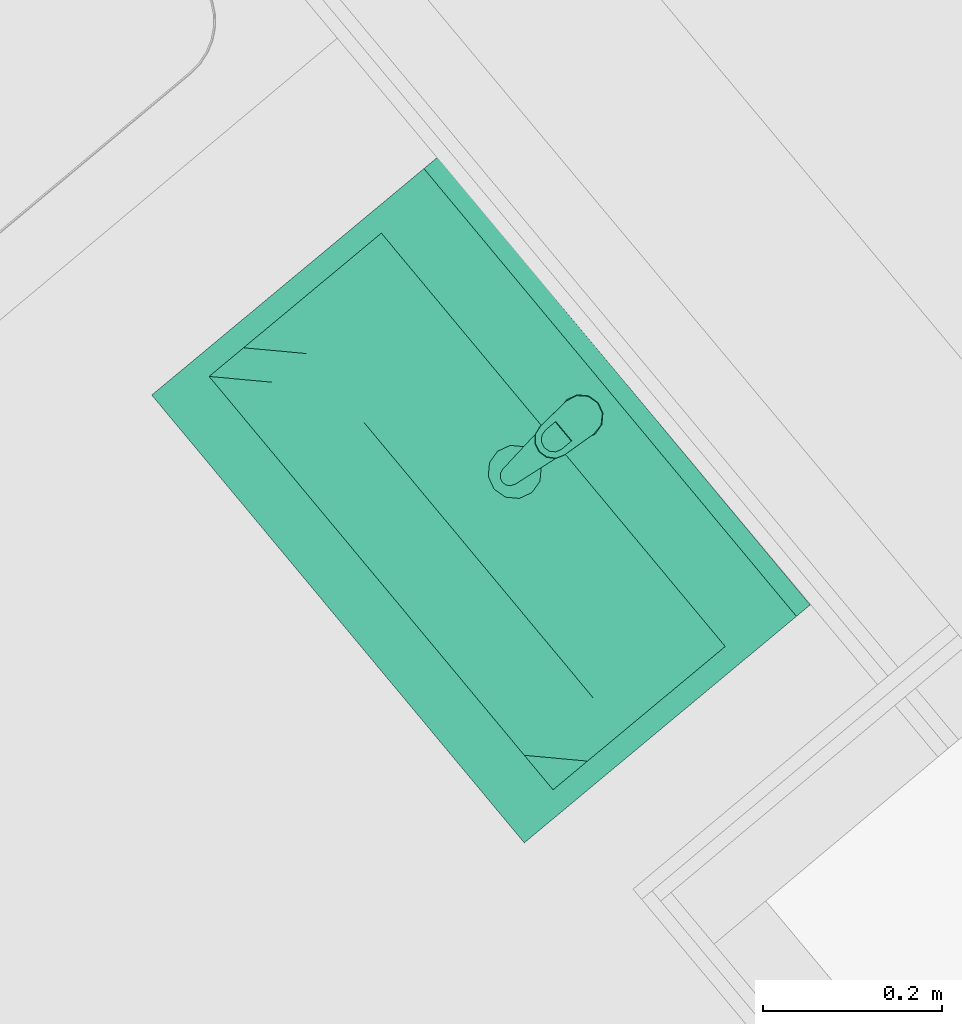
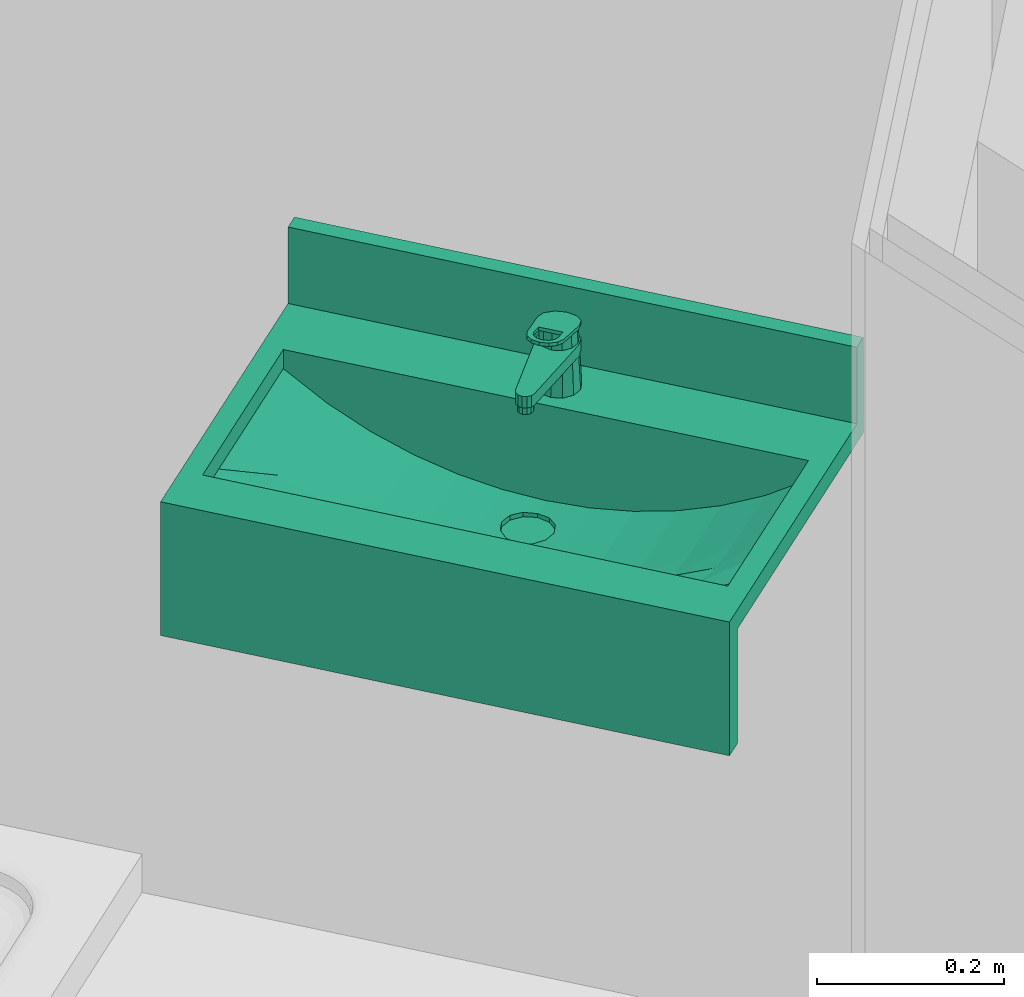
# One storey, part 51 of 58: 1 sanitary terminal.
"""IFC4 building model written with IfcOpenShell, lengths in metres."""

from ifc_helpers import new_model, entity, si_unit, converted_unit, derived_unit, direction, frame, origin_with_axes, place, context, subcontext, project, spatial, polygons, source, transform, mapped, type_object, element, save


model = new_model("IFC4")

# Units and contexts
model_context = context("Model", 3, precision=1e-05, world=origin_with_axes(), true_north=direction((0.0, 1.0)))
body_context = subcontext(model_context, "Body", "Model", "MODEL_VIEW")
ifc_project = project(units=[si_unit("LENGTHUNIT", "METRE"), si_unit("AREAUNIT", "SQUARE_METRE"), si_unit("VOLUMEUNIT", "CUBIC_METRE"), converted_unit("PLANEANGLEUNIT", "DEGREE", entity("IfcPlaneAngleMeasure", 0.0174532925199), si_unit("PLANEANGLEUNIT", "RADIAN"), dimensions=[0, 0, 0, 0, 0, 0, 0]), converted_unit("TIMEUNIT", "Year", entity("IfcTimeMeasure", 31556926.0), si_unit("TIMEUNIT", "SECOND"), dimensions=[0, 0, 1, 0, 0, 0, 0]), si_unit("MASSUNIT", "GRAM", prefix="KILO"), si_unit("THERMODYNAMICTEMPERATUREUNIT", "DEGREE_CELSIUS"), si_unit("LUMINOUSINTENSITYUNIT", "LUMEN"), si_unit("ENERGYUNIT", "JOULE", prefix="MEGA"), derived_unit("THERMALCONDUCTANCEUNIT", [(si_unit("POWERUNIT", "WATT"), 1), (si_unit("LENGTHUNIT", "METRE"), -1), (si_unit("THERMODYNAMICTEMPERATUREUNIT", "KELVIN"), -1)]), derived_unit("SPECIFICHEATCAPACITYUNIT", [(si_unit("ENERGYUNIT", "JOULE"), 1), (si_unit("MASSUNIT", "GRAM", prefix="KILO"), -1), (si_unit("THERMODYNAMICTEMPERATUREUNIT", "KELVIN"), -1)]), derived_unit("MASSDENSITYUNIT", [(si_unit("MASSUNIT", "GRAM", prefix="KILO"), 1), (si_unit("VOLUMEUNIT", "CUBIC_METRE"), -1)])], contexts=[model_context])

# Site, building, storey
site_placement = place(None, frame((-0.00153261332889, -0.00661245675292, 0.0), z_axis=(0.0, 0.0, 1.0), x_axis=(1.0, 0.0, 0.0)))
site = spatial("IfcSite", under=ifc_project, at=site_placement, Name="Site", CompositionType="ELEMENT")
building_placement = place(site_placement, origin_with_axes())
building = spatial("IfcBuilding", under=site, at=building_placement, Name="Building", CompositionType="ELEMENT")
storey_placement = place(building_placement, frame((0.0, 0.0, 5.7), z_axis=(0.0, 0.0, 1.0), x_axis=(1.0, 0.0, 0.0)))
storey = spatial("IfcBuildingStorey", under=building, at=storey_placement, Name="DG1", CompositionType="ELEMENT", Elevation=5.7)

# Sanitary terminal
sanitary_terminal_type = type_object("IfcSanitaryTerminalType", Name="Waschbecken mehrfach 26", PredefinedType="NOTDEFINED")
shared_shape = source(origin_with_axes(), body_context, "Body", "Tessellation", [
    polygons([(-0.325, 0.0, 0.875), (0.325, 0.0, 0.875), (0.325, -0.415119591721, 0.875), (-0.325, -0.415119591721, 0.875), (-0.3, -0.35255979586, 0.875), (0.3, -0.35255979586, 0.875), (0.3, -0.10255979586, 0.875), (-0.3, -0.10255979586, 0.875), (-0.325, 0.0, 0.9), (0.325, 0.0, 0.9), (0.325, -0.415119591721, 0.9), (-0.325, -0.415119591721, 0.9), (-0.3, -0.35255979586, 0.9), (0.3, -0.35255979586, 0.9), (0.3, -0.10255979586, 0.9), (-0.3, -0.10255979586, 0.9)], [[[1, 2, 3, 4], [5, 6, 7, 8]], [[1, 9, 10, 2]], [[2, 10, 11, 3]], [[3, 11, 12, 4]], [[4, 12, 9, 1]], [[13, 14, 6, 5]], [[14, 15, 7, 6]], [[15, 16, 8, 7]], [[16, 13, 5, 8]], [[11, 10, 9, 12], [13, 16, 15, 14]]], closed=True),
    polygons([(-0.325, -0.02, 0.9), (0.325, -0.02, 0.9), (0.325, -0.02, 1.0), (-0.325, -0.02, 1.0), (-0.325, 0.0, 0.9), (0.325, 0.0, 0.9), (0.325, 0.0, 1.0), (-0.325, 0.0, 1.0)], [[[1, 2, 3, 4]], [[1, 5, 6, 2]], [[2, 6, 7, 3]], [[4, 3, 7, 8]], [[5, 1, 4, 8]], [[6, 5, 8, 7]]], closed=True),
    polygons([(-0.325, -0.415119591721, 0.725), (0.325, -0.415119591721, 0.725), (0.325, -0.415119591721, 0.875), (-0.325, -0.415119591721, 0.875), (-0.325, -0.390119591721, 0.725), (0.325, -0.390119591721, 0.725), (0.325, -0.390119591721, 0.875), (-0.325, -0.390119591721, 0.875)], [[[1, 2, 3, 4]], [[1, 5, 6, 2]], [[2, 6, 7, 3]], [[4, 3, 7, 8]], [[5, 1, 4, 8]], [[6, 5, 8, 7]]], closed=True),
    polygons([(0.0, -0.18855104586, 0.775), (-0.015, -0.184531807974, 0.775751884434), (-0.0259807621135, -0.17355104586, 0.776302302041), (-0.03, -0.15855104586, 0.776503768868), (-0.0283946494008, -0.15255979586, 0.77642329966), (-0.05, -0.15255979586, 0.777506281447), (-0.05, -0.20255979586, 0.777506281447), (0.0, -0.20255979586, 0.775), (-0.015, -0.132570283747, 0.775751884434), (0.0, -0.12855104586, 0.775), (0.0, -0.10255979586, 0.775), (-0.05, -0.10255979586, 0.777506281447), (-0.0259807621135, -0.14355104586, 0.776302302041), (-0.1, -0.15255979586, 0.785102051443), (-0.1, -0.20255979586, 0.785102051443), (-0.05, -0.25255979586, 0.788254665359), (0.05, -0.15255979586, 0.777506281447), (0.0283946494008, -0.15255979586, 0.77642329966), (0.03, -0.15855104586, 0.776503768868), (0.0259807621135, -0.17355104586, 0.776302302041), (0.015, -0.184531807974, 0.775751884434), (0.05, -0.20255979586, 0.777506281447), (0.015, -0.132570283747, 0.775751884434), (0.0259807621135, -0.14355104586, 0.776302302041), (0.05, -0.10255979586, 0.777506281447), (0.15, -0.10255979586, 0.798030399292), (0.2, -0.10255979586, 0.816742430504), (0.25, -0.10255979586, 0.841987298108), (0.3, -0.10255979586, 0.875), (-0.3, -0.10255979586, 0.875), (-0.25, -0.10255979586, 0.841987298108), (-0.2, -0.10255979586, 0.816742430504), (-0.15, -0.10255979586, 0.798030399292), (-0.1, -0.10255979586, 0.785102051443), (0.1, -0.10255979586, 0.785102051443), (-0.15, -0.15255979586, 0.798030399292), (-0.15, -0.20255979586, 0.798030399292), (-0.1, -0.25255979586, 0.795144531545), (0.0, -0.25255979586, 0.785977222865), (0.1, -0.20255979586, 0.785102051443), (0.1, -0.15255979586, 0.785102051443), (0.2, -0.15255979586, 0.816742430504), (0.15, -0.15255979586, 0.798030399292), (0.25, -0.15255979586, 0.841987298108), (0.3, -0.15255979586, 0.875), (-0.25, -0.15255979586, 0.841987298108), (-0.3, -0.15255979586, 0.875), (-0.2, -0.15255979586, 0.816742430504), (-0.2, -0.20255979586, 0.816742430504), (-0.15, -0.25255979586, 0.806826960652), (-0.05, -0.30255979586, 0.830189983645), (-0.1, -0.30255979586, 0.83395176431), (0.05, -0.25255979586, 0.788254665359), (0.15, -0.20255979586, 0.798030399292), (0.2, -0.20255979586, 0.816742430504), (0.25, -0.20255979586, 0.841987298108), (0.3, -0.20255979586, 0.875), (0.3, -0.25255979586, 0.875), (0.3, -0.30255979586, 0.875), (0.3, -0.35255979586, 0.875), (-0.3, -0.25255979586, 0.875), (-0.3, -0.20255979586, 0.875), (-0.3, -0.35255979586, 0.875), (-0.3, -0.30255979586, 0.875), (-0.25, -0.20255979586, 0.841987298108), (-0.2, -0.25255979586, 0.823629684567), (-0.15, -0.30255979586, 0.840253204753), (0.0, -0.30255979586, 0.828939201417), (0.1, -0.25255979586, 0.795144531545), (0.15, -0.25255979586, 0.806826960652), (0.2, -0.25255979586, 0.823629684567), (0.25, -0.25255979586, 0.846079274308), (0.25, -0.30255979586, 0.860693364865), (0.25, -0.35255979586, 0.875), (-0.25, -0.30255979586, 0.860693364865), (-0.25, -0.25255979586, 0.846079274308), (-0.2, -0.30255979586, 0.849143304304), (-0.05, -0.35255979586, 0.875), (-0.1, -0.35255979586, 0.875), (-0.15, -0.35255979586, 0.875), (0.05, -0.30255979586, 0.830189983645), (-0.2, -0.35255979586, 0.875), (-0.25, -0.35255979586, 0.875), (0.2, -0.35255979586, 0.875), (0.15, -0.35255979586, 0.875), (0.1, -0.35255979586, 0.875), (0.05, -0.35255979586, 0.875), (0.0, -0.35255979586, 0.875), (0.1, -0.30255979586, 0.83395176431), (0.15, -0.30255979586, 0.840253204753), (0.2, -0.30255979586, 0.849143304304)], [[[1, 2, 3, 4, 5, 6, 7, 8]], [[9, 10, 11, 12, 6, 5, 13]], [[7, 6, 14, 15]], [[16, 8, 7]], [[17, 18, 19, 20, 21, 1, 8, 22]], [[10, 23, 24, 18, 17, 25, 11]], [[26, 27, 28, 29, 30, 31, 32, 33, 34, 12, 11, 25, 35]], [[6, 12, 34, 14]], [[15, 14, 36, 37]], [[38, 7, 15]], [[16, 39, 8]], [[38, 16, 7]], [[39, 22, 8]], [[40, 41, 17, 22]], [[41, 35, 25, 17]], [[42, 27, 26, 43]], [[44, 28, 27, 42]], [[45, 29, 28, 44]], [[46, 31, 30, 47]], [[48, 32, 31, 46]], [[36, 33, 32, 48]], [[14, 34, 33, 36]], [[43, 26, 35, 41]], [[37, 36, 48, 49]], [[50, 15, 37]], [[50, 38, 15]], [[51, 39, 16]], [[52, 16, 38]], [[39, 53, 22]], [[54, 43, 41, 40]], [[53, 40, 22]], [[55, 42, 43, 54]], [[56, 44, 42, 55]], [[57, 58, 59, 60, 29, 45]], [[57, 45, 44, 56]], [[61, 62, 47, 30, 63, 64]], [[65, 46, 47, 62]], [[49, 48, 46, 65]], [[66, 37, 49]], [[66, 50, 37]], [[67, 38, 50]], [[51, 68, 39]], [[52, 51, 16]], [[67, 52, 38]], [[68, 53, 39]], [[69, 54, 40]], [[53, 69, 40]], [[70, 55, 54]], [[71, 56, 55]], [[72, 58, 57]], [[73, 59, 58]], [[74, 60, 59]], [[72, 57, 56]], [[61, 65, 62]], [[63, 75, 64]], [[64, 76, 61]], [[76, 49, 65]], [[76, 66, 49]], [[77, 50, 66]], [[77, 67, 50]], [[78, 68, 51]], [[79, 51, 52]], [[80, 52, 67]], [[68, 81, 53]], [[69, 70, 54]], [[81, 69, 53]], [[70, 71, 55]], [[71, 72, 56]], [[73, 58, 72]], [[74, 59, 73]], [[80, 82, 83, 63, 60, 74, 84, 85, 86, 87, 88, 78, 79]], [[61, 76, 65]], [[63, 83, 75]], [[64, 75, 76]], [[75, 66, 76]], [[75, 77, 66]], [[82, 67, 77]], [[78, 88, 68]], [[79, 78, 51]], [[80, 79, 52]], [[82, 80, 67]], [[88, 81, 68]], [[89, 70, 69]], [[81, 89, 69]], [[90, 71, 70]], [[91, 72, 71]], [[91, 73, 72]], [[84, 74, 73]], [[83, 82, 77]], [[85, 84, 91]], [[86, 85, 90]], [[87, 86, 89]], [[88, 87, 81]], [[83, 77, 75]], [[89, 90, 70]], [[87, 89, 81]], [[90, 91, 71]], [[84, 73, 91]], [[85, 91, 90]], [[86, 90, 89]]], closed=False),
    polygons([(0.03, -0.15855104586, 0.776503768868), (0.0259807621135, -0.17355104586, 0.776302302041), (0.0259807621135, -0.17355104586, 0.77), (0.03, -0.15855104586, 0.77), (0.015, -0.184531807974, 0.775751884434), (0.015, -0.184531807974, 0.77), (0.0, -0.12855104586, 0.77), (0.015, -0.132570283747, 0.77), (0.0259807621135, -0.14355104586, 0.77), (0.0, -0.18855104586, 0.77), (-0.015, -0.184531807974, 0.77), (-0.0259807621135, -0.17355104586, 0.77), (-0.03, -0.15855104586, 0.77), (-0.0259807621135, -0.14355104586, 0.77), (-0.015, -0.132570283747, 0.77), (0.0259807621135, -0.14355104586, 0.776302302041), (0.0, -0.18855104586, 0.775), (0.0, -0.12855104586, 0.775), (0.015, -0.132570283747, 0.775751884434), (-0.015, -0.184531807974, 0.775751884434), (-0.0259807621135, -0.17355104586, 0.776302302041), (-0.03, -0.15855104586, 0.776503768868), (-0.0259807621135, -0.14355104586, 0.776302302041), (-0.015, -0.132570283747, 0.775751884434)], [[[1, 2, 3, 4]], [[2, 5, 6, 3]], [[7, 8, 9, 4, 3, 6, 10, 11, 12, 13, 14, 15]], [[16, 1, 4, 9]], [[5, 17, 10, 6]], [[18, 19, 8, 7]], [[19, 16, 9, 8]], [[17, 20, 11, 10]], [[20, 21, 12, 11]], [[21, 22, 13, 12]], [[22, 23, 14, 13]], [[23, 24, 15, 14]], [[24, 18, 7, 15]]], closed=False),
    polygons([(0.0125, -0.0409091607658, 0.9), (0.0, -0.0375597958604, 0.9), (0.0, -0.0413578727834, 0.975961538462), (0.0105873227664, -0.0442220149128, 0.976507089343), (0.0216506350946, -0.0500597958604, 0.9), (0.025, -0.0625597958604, 0.9), (0.0216506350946, -0.0750597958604, 0.9), (0.0125, -0.084210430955, 0.9), (0.0, -0.0875597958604, 0.9), (-0.0125, -0.084210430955, 0.9), (-0.0216506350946, -0.0750597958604, 0.9), (-0.025, -0.0625597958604, 0.9), (-0.0216506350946, -0.0500597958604, 0.9), (-0.0125, -0.0409091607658, 0.9), (-0.0105873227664, -0.0442220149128, 0.976507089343), (-0.0182735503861, -0.0520095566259, 0.977990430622), (-0.021, -0.0625597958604, 0.98), (-0.0181003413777, -0.0730100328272, 0.981990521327), (-0.0104141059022, -0.0805975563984, 0.983435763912), (0.0, -0.0833616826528, 0.983962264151), (0.0104141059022, -0.0805975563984, 0.983435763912), (0.0181003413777, -0.0730100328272, 0.981990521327), (0.021, -0.0625597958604, 0.98), (0.0182735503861, -0.0520095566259, 0.977990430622)], [[[1, 2, 3, 4]], [[1, 5, 6, 7, 8, 9, 10, 11, 12, 13, 14, 2]], [[2, 14, 15, 3]], [[4, 3, 15, 16, 17, 18, 19, 20, 21, 22, 23, 24]], [[5, 1, 4, 24]], [[6, 5, 24, 23]], [[7, 6, 23, 22]], [[8, 7, 22, 21]], [[9, 8, 21, 20]], [[10, 9, 20, 19]], [[11, 10, 19, 18]], [[12, 11, 18, 17]], [[13, 12, 17, 16]], [[14, 13, 16, 15]]], closed=True),
    polygons([(0.009, -0.16555979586, 0.935), (0.00779422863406, -0.16105979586, 0.935), (0.00779422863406, -0.16105979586, 0.945), (0.009, -0.16555979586, 0.945), (0.00779422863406, -0.17005979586, 0.935), (0.0045, -0.173354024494, 0.935), (0.0, -0.17455979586, 0.935), (-0.0045, -0.173354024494, 0.935), (-0.00779422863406, -0.17005979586, 0.935), (-0.009, -0.16555979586, 0.935), (-0.00779422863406, -0.16105979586, 0.935), (-0.0045, -0.157765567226, 0.935), (0.0, -0.15655979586, 0.935), (0.0045, -0.157765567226, 0.935), (0.0045, -0.157765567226, 0.945), (0.0, -0.15655979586, 0.945), (-0.0045, -0.157765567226, 0.945), (-0.00779422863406, -0.16105979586, 0.945), (-0.009, -0.16555979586, 0.945), (-0.00779422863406, -0.17005979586, 0.945), (-0.0045, -0.173354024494, 0.945), (0.0, -0.17455979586, 0.945), (0.0045, -0.173354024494, 0.945), (0.00779422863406, -0.17005979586, 0.945)], [[[1, 2, 3, 4]], [[1, 5, 6, 7, 8, 9, 10, 11, 12, 13, 14, 2]], [[2, 14, 15, 3]], [[4, 3, 15, 16, 17, 18, 19, 20, 21, 22, 23, 24]], [[5, 1, 4, 24]], [[6, 5, 24, 23]], [[7, 6, 23, 22]], [[8, 7, 22, 21]], [[9, 8, 21, 20]], [[10, 9, 20, 19]], [[11, 10, 19, 18]], [[12, 11, 18, 17]], [[13, 12, 17, 16]], [[14, 13, 16, 15]]], closed=True),
    polygons([(-0.0128717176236, -0.0423034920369, 0.96), (-0.021727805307, -0.0523665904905, 0.96), (-0.0238054, -0.0656096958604, 0.96), (-0.010911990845, -0.166948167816, 0.96), (-0.00902887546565, -0.17184299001, 0.96), (-0.00509332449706, -0.175309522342, 0.96), (3.62679860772e-08, -0.176559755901, 0.96), (0.00509338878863, -0.175309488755, 0.96), (0.00902891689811, -0.171842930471, 0.96), (0.010912, -0.16694809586, 0.96), (0.0238053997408, -0.0656096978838, 0.96), (0.0217278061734, -0.0523665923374, 0.96), (0.0128717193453, -0.042303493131, 0.96), (1.01998896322e-09, -0.0385598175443, 0.96), (0.011, -0.0435072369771, 0.96), (0.0190525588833, -0.0515597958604, 0.96), (0.022, -0.0625597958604, 0.96), (0.0190525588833, -0.0735597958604, 0.96), (0.011, -0.0816123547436, 0.96), (0.0, -0.0845597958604, 0.96), (-0.011, -0.0816123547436, 0.96), (-0.0190525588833, -0.0735597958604, 0.96), (-0.022, -0.0625597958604, 0.96), (-0.0190525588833, -0.0515597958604, 0.96), (-0.011, -0.0435072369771, 0.96), (0.0, -0.0405597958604, 0.96), (-0.021727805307, -0.0523665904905, 0.945), (-0.0128717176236, -0.0423034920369, 0.945), (-0.0238054, -0.0656096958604, 0.945), (-0.010911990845, -0.166948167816, 0.945), (-0.00902887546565, -0.17184299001, 0.945), (-0.00509332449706, -0.175309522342, 0.945), (3.62679860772e-08, -0.176559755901, 0.945), (0.00509338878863, -0.175309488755, 0.945), (0.00902891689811, -0.171842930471, 0.945), (0.010912, -0.16694809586, 0.945), (0.0238053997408, -0.0656096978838, 0.945), (0.0217278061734, -0.0523665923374, 0.945), (0.0128717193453, -0.042303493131, 0.945), (1.01998896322e-09, -0.0385598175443, 0.945), (0.011375, -0.0428577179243, 0.945), (0.0197020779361, -0.0511847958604, 0.945), (0.02275, -0.0625597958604, 0.945), (0.0197020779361, -0.0739347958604, 0.945), (0.011375, -0.0822618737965, 0.945), (0.0, -0.0853097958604, 0.945), (-0.011375, -0.0822618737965, 0.945), (-0.0197020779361, -0.0739347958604, 0.945), (-0.02275, -0.0625597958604, 0.945), (-0.0197020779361, -0.0511847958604, 0.945), (-0.011375, -0.0428577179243, 0.945), (0.0, -0.0398097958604, 0.945)], [[[1, 2, 3, 4, 5, 6, 7, 8, 9, 10, 11, 12, 13, 14], [15, 16, 17, 18, 19, 20, 21, 22, 23, 24, 25, 26]], [[27, 2, 1, 28]], [[29, 3, 2, 27]], [[30, 4, 3, 29]], [[31, 5, 4, 30]], [[32, 6, 5, 31]], [[33, 7, 6, 32]], [[34, 8, 7, 33]], [[35, 9, 8, 34]], [[36, 10, 9, 35]], [[37, 11, 10, 36]], [[38, 12, 11, 37]], [[39, 13, 12, 38]], [[40, 14, 13, 39]], [[28, 1, 14, 40]], [[41, 42, 16, 15]], [[42, 43, 17, 16]], [[43, 44, 18, 17]], [[44, 45, 19, 18]], [[45, 46, 20, 19]], [[21, 20, 46, 47]], [[22, 21, 47, 48]], [[23, 22, 48, 49]], [[24, 23, 49, 50]], [[25, 24, 50, 51]], [[51, 52, 26, 25]], [[52, 41, 15, 26]], [[33, 32, 31, 30, 29, 27, 28, 40, 39, 38, 37, 36, 35, 34], [45, 44, 43, 42, 41, 52, 51, 50, 49, 48, 47, 46]]], closed=True),
    polygons([(0.023893, -0.0642523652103, 0.980322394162), (0.0212964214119, -0.0517850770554, 0.977947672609), (0.0212964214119, -0.0510366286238, 0.981877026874), (0.023893, -0.0635039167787, 0.984251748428), (0.0209459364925, -0.104396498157, 0.987968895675), (0.0176631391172, -0.114074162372, 0.989812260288), (0.0100614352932, -0.121023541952, 0.991135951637), (-4.42652908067e-07, -0.123545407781, 0.991616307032), (-0.0100622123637, -0.121023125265, 0.991135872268), (-0.0176636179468, -0.114073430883, 0.989812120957), (-0.020946, -0.104395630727, 0.987968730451), (-0.023893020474, -0.0642520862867, 0.980322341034), (-0.0212962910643, -0.0517848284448, 0.977947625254), (-0.0124716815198, -0.0424685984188, 0.976173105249), (1.42337785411e-07, -0.0390278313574, 0.975517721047), (0.0124719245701, -0.0424687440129, 0.976173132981), (0.014, -0.0881005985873, 0.984864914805), (-0.014, -0.0881005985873, 0.984864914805), (-0.014, -0.102916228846, 0.987686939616), (-0.012124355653, -0.109792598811, 0.988996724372), (-0.007, -0.114826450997, 0.989955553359), (0.0, -0.116668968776, 0.990306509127), (0.007, -0.114826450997, 0.989955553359), (0.012124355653, -0.109792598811, 0.988996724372), (0.014, -0.102916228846, 0.987686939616), (0.0124719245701, -0.0417202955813, 0.980102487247), (1.42337785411e-07, -0.0382793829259, 0.979447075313), (-0.0124716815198, -0.0417201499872, 0.980102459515), (-0.0212962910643, -0.0510363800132, 0.98187697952), (-0.023893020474, -0.0635036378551, 0.984251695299), (-0.020946, -0.103647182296, 0.991898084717), (-0.0176636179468, -0.113324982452, 0.993741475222), (-0.0100622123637, -0.120274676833, 0.995065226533), (-4.42652908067e-07, -0.122796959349, 0.995545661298), (0.0100614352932, -0.120275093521, 0.995065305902), (0.0176631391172, -0.11332571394, 0.993741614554), (0.0209459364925, -0.103648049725, 0.991898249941), (0.014, -0.0873521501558, 0.988794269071), (0.014, -0.102167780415, 0.991616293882), (0.012124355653, -0.10904415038, 0.992926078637), (0.007, -0.114078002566, 0.993884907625), (0.0, -0.115920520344, 0.994235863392), (-0.007, -0.114078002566, 0.993884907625), (-0.012124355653, -0.10904415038, 0.992926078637), (-0.014, -0.102167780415, 0.991616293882), (-0.014, -0.0873521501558, 0.988794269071)], [[[1, 2, 3, 4]], [[1, 5, 6, 7, 8, 9, 10, 11, 12, 13, 14, 15, 16, 2], [17, 18, 19, 20, 21, 22, 23, 24, 25]], [[2, 16, 26, 3]], [[4, 3, 26, 27, 28, 29, 30, 31, 32, 33, 34, 35, 36, 37], [38, 39, 40, 41, 42, 43, 44, 45, 46]], [[5, 1, 4, 37]], [[6, 5, 37, 36]], [[7, 6, 36, 35]], [[8, 7, 35, 34]], [[9, 8, 34, 33]], [[10, 9, 33, 32]], [[11, 10, 32, 31]], [[12, 11, 31, 30]], [[13, 12, 30, 29]], [[14, 13, 29, 28]], [[15, 14, 28, 27]], [[16, 15, 27, 26]], [[18, 17, 38, 46]], [[19, 18, 46, 45]], [[20, 19, 45, 44]], [[21, 20, 44, 43]], [[22, 21, 43, 42]], [[23, 22, 42, 41]], [[24, 23, 41, 40]], [[25, 24, 40, 39]], [[17, 25, 39, 38]]], closed=True),
])
sanitary_terminal_placement = place(storey_placement, frame((-3.16586758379, 21.2588114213, 0.145), z_axis=(0.0, 0.0, 1.0), x_axis=(0.639604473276, -0.768704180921, 0.0)))
element("IfcSanitaryTerminal", 1, at=sanitary_terminal_placement, inside=storey, type_object=sanitary_terminal_type, Name="Objekt-0009", PredefinedType="NOTDEFINED", context=body_context, shape_type="MappedRepresentation", body=[
    mapped(shared_shape, transform((0.0, 0.0, 0.0))),
])

save(model, "model.ifc")
